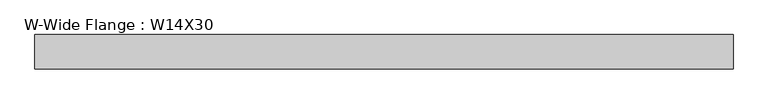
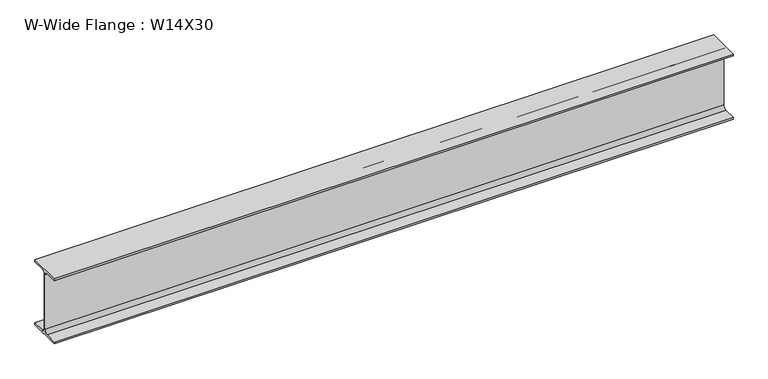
"""IFC4 building model written with IfcOpenShell, lengths in millimetres: beam geometry, W-Wide Flange : W14X30."""

import ifcopenshell
import ifcopenshell.guid

model = None  # the IFC model being written
_history = None  # IfcOwnerHistory: only IFC2X3 demands one
_inside = {}  # id of a spatial element -> (the spatial element, [elements in it])
_under = {}  # id of a project, library or spatial element -> (it, [spatial elements below it])
_declared = {}  # id of a project -> (the project, [libraries it declares])
_typed = {}  # id of a type object -> (the type object, [elements of that type])
_made_of = {}  # id of a material, layer set ... -> (it, [elements and type objects made of it])


def new_model(schema):
    """Start an empty IFC model of exactly this schema.

    Asked for "IFC4X3", IfcOpenShell would pick the latest addendum, in which some entities
    have other attributes; the version numbers below select the first issue.
    IFC2X3 requires an IfcOwnerHistory on every rooted entity: one is made here for all.
    """
    global model, _history
    if schema == "IFC4X3":
        model = ifcopenshell.file(schema_version=(4, 3, 0, 0))
    else:
        model = ifcopenshell.file(schema=schema)
    _inside.clear()
    _under.clear()
    _declared.clear()
    _typed.clear()
    _made_of.clear()
    _history = None
    if model.schema == "IFC2X3":
        org = make("IfcOrganization", Name="unknown")
        user = make(
            "IfcPersonAndOrganization",
            ThePerson=make("IfcPerson", FamilyName="unknown"),
            TheOrganization=org,
        )
        app = make(
            "IfcApplication",
            ApplicationDeveloper=org,
            Version="unknown",
            ApplicationFullName="unknown",
            ApplicationIdentifier="unknown",
        )
        _history = make(
            "IfcOwnerHistory",
            OwningUser=user,
            OwningApplication=app,
            ChangeAction="ADDED",
            CreationDate=0,
        )
    return model


def make(cls, **values):
    """One entity of the class cls with the attributes given. An attribute that is None is left unset."""
    return model.create_entity(
        cls, **{name: value for name, value in values.items() if value is not None}
    )


def rooted(cls, **values):
    """An entity with a GlobalId (a new one), such as an element, a storey or a relation."""
    return make(cls, GlobalId=ifcopenshell.guid.new(), OwnerHistory=_history, **values)


def si_unit(unit_type, name, prefix=None):
    """IfcSIUnit, for example si_unit("LENGTHUNIT", "METRE", prefix="MILLI")."""
    return make("IfcSIUnit", UnitType=unit_type, Prefix=prefix, Name=name)


def assignment(units):
    """IfcUnitAssignment: the units of a project."""
    return None if units is None else make("IfcUnitAssignment", Units=units)


def point(xyz):
    """IfcCartesianPoint."""
    return None if xyz is None else make("IfcCartesianPoint", Coordinates=xyz)


def direction(xyz):
    """IfcDirection."""
    return None if xyz is None else make("IfcDirection", DirectionRatios=xyz)


def frame(location, z_axis=None, x_axis=None):
    """IfcAxis2Placement3D, a coordinate frame: its origin and axes. An axis left out is left unset."""
    return make(
        "IfcAxis2Placement3D",
        Location=point(location),
        Axis=direction(z_axis),
        RefDirection=direction(x_axis),
    )


def frame_2d(location, x_axis=None):
    """IfcAxis2Placement2D, a coordinate frame in the plane: its origin and x axis."""
    return make(
        "IfcAxis2Placement2D", Location=point(location), RefDirection=direction(x_axis)
    )


def origin():
    """The frame at (0, 0, 0) with its axes left unset."""
    return frame((0.0, 0.0, 0.0))


def place(relative_to, where):
    """IfcLocalPlacement: puts the frame where relative to a parent placement (None: the world)."""
    return make(
        "IfcLocalPlacement", PlacementRelTo=relative_to, RelativePlacement=where
    )


def context(
    kind, dimensions, precision=None, world=None, true_north=None, identifier=None
):
    """IfcGeometricRepresentationContext, for example the 3D "Model" context."""
    return make(
        "IfcGeometricRepresentationContext",
        ContextIdentifier=identifier,
        ContextType=kind,
        CoordinateSpaceDimension=dimensions,
        Precision=precision,
        WorldCoordinateSystem=world,
        TrueNorth=true_north,
    )


def project(units=None, contexts=None):
    """IfcProject with its units and contexts."""
    return rooted(
        "IfcProject",
        Name="project",
        RepresentationContexts=contexts,
        UnitsInContext=assignment(units),
    )


def spatial(cls, under=None, at=None, **own):
    """A site, building, storey or space (cls), placed at a placement, below another one or the project."""
    s = rooted(cls, ObjectPlacement=at, **own)
    if under is not None:
        _under.setdefault(under.id(), (under, []))[1].append(s)
    return s


def polyline(points):
    """IfcPolyline through the points."""
    return make("IfcPolyline", Points=[point(p) for p in points])


def circle_curve(where, radius):
    """IfcCircle in the frame where."""
    return make("IfcCircle", Position=where, Radius=radius)


def trimmed(basis, trim1, trim2, sense, master):
    """IfcTrimmedCurve: the piece of a basis curve between two trims."""
    return make(
        "IfcTrimmedCurve",
        BasisCurve=basis,
        Trim1=trim1,
        Trim2=trim2,
        SenseAgreement=sense,
        MasterRepresentation=master,
    )


def segment(curve, same_sense, transition):
    """IfcCompositeCurveSegment."""
    return make(
        "IfcCompositeCurveSegment",
        Transition=transition,
        SameSense=same_sense,
        ParentCurve=curve,
    )


def composite_curve(segments, self_intersect=None):
    """IfcCompositeCurve: segments joined end to end."""
    return make("IfcCompositeCurve", Segments=segments, SelfIntersect=self_intersect)


def outline(outer, holes=None, kind="AREA"):
    """IfcArbitraryClosedProfileDef: a profile drawn as a closed curve; with holes, ...WithVoids."""
    if holes is None:
        return make("IfcArbitraryClosedProfileDef", ProfileType=kind, OuterCurve=outer)
    return make(
        "IfcArbitraryProfileDefWithVoids",
        ProfileType=kind,
        OuterCurve=outer,
        InnerCurves=holes,
    )


def extrude(swept, where, along, depth):
    """IfcExtrudedAreaSolid: the profile swept, set in the frame where, extruded along a direction by depth."""
    return make(
        "IfcExtrudedAreaSolid",
        SweptArea=swept,
        Position=where,
        ExtrudedDirection=direction(along),
        Depth=depth,
    )


def shape(context_of_items, identifier, shape_type, items):
    """IfcShapeRepresentation: the items that make up one representation, for example the "Body"."""
    return make(
        "IfcShapeRepresentation",
        ContextOfItems=context_of_items,
        RepresentationIdentifier=identifier,
        RepresentationType=shape_type,
        Items=items,
    )


def source(mapping_origin, context_of_items, identifier, shape_type, items):
    """IfcRepresentationMap: a shape defined once, which mapped items show again and again."""
    return make(
        "IfcRepresentationMap",
        MappingOrigin=mapping_origin,
        MappedRepresentation=shape(context_of_items, identifier, shape_type, items),
    )


def transform(
    local_origin,
    x_axis=None,
    y_axis=None,
    z_axis=None,
    scale=None,
    scale2=None,
    scale3=None,
    uniform=True,
):
    """IfcCartesianTransformationOperator3D, or its non-uniform kind. x_axis, y_axis, z_axis: its Axis1, 2, 3."""
    if uniform:
        return make(
            "IfcCartesianTransformationOperator3D",
            Axis1=direction(x_axis),
            Axis2=direction(y_axis),
            LocalOrigin=point(local_origin),
            Scale=scale,
            Axis3=direction(z_axis),
        )
    return make(
        "IfcCartesianTransformationOperator3DnonUniform",
        Axis1=direction(x_axis),
        Axis2=direction(y_axis),
        LocalOrigin=point(local_origin),
        Scale=scale,
        Axis3=direction(z_axis),
        Scale2=scale2,
        Scale3=scale3,
    )


def mapped(mapping_source, mapping_target):
    """IfcMappedItem: shows the shape of a source again, moved by a transform."""
    return make(
        "IfcMappedItem", MappingSource=mapping_source, MappingTarget=mapping_target
    )


def made_of(thing, what):
    """Note that an element or type object is made of a material, layer set ...; save() writes the relation."""
    if what is not None:
        _made_of.setdefault(what.id(), (what, []))[1].append(thing)
    return thing


def element(
    cls,
    number,
    at=None,
    inside=None,
    cuts=None,
    type_object=None,
    material=None,
    context=None,
    identifier="Body",
    shape_type=None,
    held_by="IfcProductDefinitionShape",
    body=None,
    shapes=None,
    **own,
):
    """One element of the class cls, such as IfcWall. Its Tag is "e" and its number.

    at: its placement. inside: the storey or other place that contains it. cuts: it is an
    opening in that element (IfcRelVoidsElement). A single representation is given by context,
    identifier, shape_type and body (its items); several are given by shapes. held_by: the class
    of the entity that holds the representations. save() writes the other relations.
    """
    e = rooted(cls, Tag="e%d" % number, ObjectPlacement=at, **own)
    if body is not None:
        shapes = [shape(context, identifier, shape_type, body)]
    if shapes is not None:
        e.Representation = make(held_by, Representations=shapes)
    if inside is not None:
        _inside.setdefault(inside.id(), (inside, []))[1].append(e)
    if cuts is not None:
        rooted(
            "IfcRelVoidsElement", RelatingBuildingElement=cuts, RelatedOpeningElement=e
        )
    if type_object is not None:
        _typed.setdefault(type_object.id(), (type_object, []))[1].append(e)
    return made_of(e, material)


def aggregate(whole, parts):
    """IfcRelAggregates: a whole, such as a stair, and the parts it consists of."""
    return rooted("IfcRelAggregates", RelatingObject=whole, RelatedObjects=parts)


def save(model, path):
    """Write the relations noted so far, then the file.

    IfcRelAggregates (storeys below a building ...), IfcRelContainedInSpatialStructure (elements
    in a storey), IfcRelDefinesByType, IfcRelAssociatesMaterial and IfcRelDeclares: one each for
    every whole, place, type object, material and project.
    """
    for whole, parts in _under.values():
        aggregate(whole, parts)
    for where, things in _inside.values():
        rooted(
            "IfcRelContainedInSpatialStructure",
            RelatedElements=things,
            RelatingStructure=where,
        )
    for kind, things in _typed.values():
        rooted("IfcRelDefinesByType", RelatedObjects=things, RelatingType=kind)
    for what, things in _made_of.values():
        rooted("IfcRelAssociatesMaterial", RelatedObjects=things, RelatingMaterial=what)
    for by, libraries in _declared.values():
        rooted("IfcRelDeclares", RelatingContext=by, RelatedDefinitions=libraries)
    model.write(path)


def w_wide_flange_w14x30_3de07e4c(model_context):
    return source(origin(), model_context, "Body", "SweptSolid", [
        extrude(outline(composite_curve([segment(polyline([(85.471, -165.481), (85.471, -175.26), (-85.471, -175.26), (-85.471, -165.481), (-22.225, -165.481)]), True, "CONTINUOUS"), segment(trimmed(circle_curve(frame_2d((-22.225, -146.685)), 18.796), [point((-22.225, -165.481))], [point((-3.429, -146.685))], True, "CARTESIAN"), True, "CONTINUOUS"), segment(polyline([(-3.429, -146.685), (-3.429, 146.685)]), True, "CONTINUOUS"), segment(trimmed(circle_curve(frame_2d((-22.225, 146.685)), 18.796), [point((-3.429, 146.685))], [point((-22.225, 165.481))], True, "CARTESIAN"), True, "CONTINUOUS"), segment(polyline([(-22.225, 165.481), (-85.471, 165.481), (-85.471, 175.26), (85.471, 175.26), (85.471, 165.481), (22.225, 165.481)]), True, "CONTINUOUS"), segment(trimmed(circle_curve(frame_2d((22.225, 146.685)), 18.796), [point((22.225, 165.481))], [point((3.429, 146.685))], True, "CARTESIAN"), True, "CONTINUOUS"), segment(polyline([(3.429, 146.685), (3.429, -146.685)]), True, "CONTINUOUS"), segment(trimmed(circle_curve(frame_2d((22.225, -146.685)), 18.796), [point((3.429, -146.685))], [point((22.225, -165.481))], True, "CARTESIAN"), True, "CONTINUOUS"), segment(polyline([(22.225, -165.481), (85.471, -165.481)]), True, "CONTINUOUS")], self_intersect=False)), frame((-1732.243091, 0.0, 0.0), z_axis=(1.0, 0.0, 0.0), x_axis=(0.0, 1.0, 0.0)), (0.0, 0.0, 1.0), 3464.486182),
    ])


if __name__ == "__main__":
    model = new_model("IFC4")
    model_context = context("Model", 3, world=origin())
    ifc_project = project(units=[si_unit("LENGTHUNIT", "METRE", prefix="MILLI")], contexts=[model_context])
    site = spatial("IfcSite", under=ifc_project)
    building = spatial("IfcBuilding", under=site)
    placement = place(None, origin())
    w_wide_flange_w14x30_shape = w_wide_flange_w14x30_3de07e4c(model_context)
    element("IfcBeam", 1, ObjectType="W-Wide Flange : W14X30", at=placement, inside=building, context=model_context, shape_type="MappedRepresentation", body=[
        mapped(w_wide_flange_w14x30_shape, transform((0.0, 0.0, 0.0), x_axis=(1.0, 0.0, 0.0), y_axis=(0.0, 1.0, 0.0), z_axis=(0.0, 0.0, 1.0))),
    ])
    save(model, "model.ifc")
